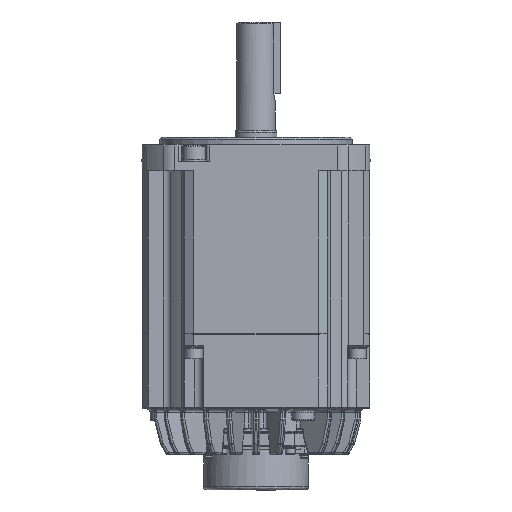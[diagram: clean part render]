
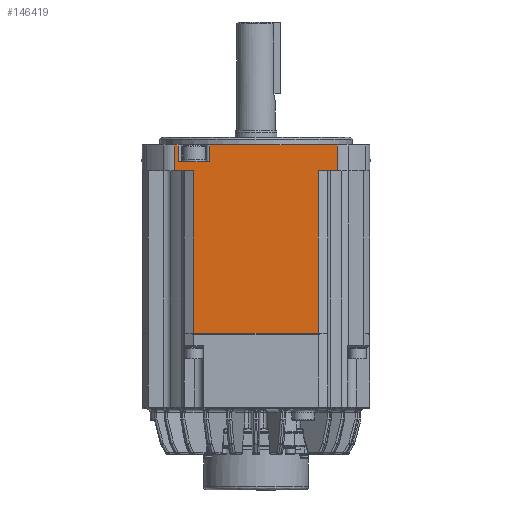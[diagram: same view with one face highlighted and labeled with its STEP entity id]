
A CAD part, front view. The second image highlights one B-rep face of the part: STEP entity #146419.
In plain terms, the highlighted planar face has unit normal (0, -1, 0).
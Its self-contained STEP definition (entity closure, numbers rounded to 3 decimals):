
#1338 = CARTESIAN_POINT ( 'NONE',  ( 155.25, 75.886, 86.092 ) ) ;
#2577 = DIRECTION ( 'NONE',  ( -1., 0., 0. ) ) ;
#4305 = VERTEX_POINT ( 'NONE', #81693 ) ;
#5104 = DIRECTION ( 'NONE',  ( 0., 0., -1. ) ) ;
#8265 = CARTESIAN_POINT ( 'NONE',  ( 164.426, 75.886, 147.092 ) ) ;
#8620 = VECTOR ( 'NONE', #155693, 1000. ) ;
#10188 = VECTOR ( 'NONE', #61274, 1000. ) ;
#11766 = CARTESIAN_POINT ( 'NONE',  ( 248.18, 75.886, 142.092 ) ) ;
#12298 = VERTEX_POINT ( 'NONE', #62369 ) ;
#12527 = FACE_OUTER_BOUND ( 'NONE', #84946, .T. ) ;
#12660 = CARTESIAN_POINT ( 'NONE',  ( 166.215, 75.886, 142.092 ) ) ;
#12702 = DIRECTION ( 'NONE',  ( 1., 0., 0. ) ) ;
#13418 = ORIENTED_EDGE ( 'NONE', *, *, #127316, .T. ) ;
#14767 = EDGE_CURVE ( 'NONE', #4305, #106724, #149715, .T. ) ;
#17155 = DIRECTION ( 'NONE',  ( 0., 0., 1. ) ) ;
#17571 = VERTEX_POINT ( 'NONE', #133794 ) ;
#17769 = PLANE ( 'NONE',  #122854 ) ;
#19879 = LINE ( 'NONE', #147534, #49806 ) ;
#21417 = VERTEX_POINT ( 'NONE', #160798 ) ;
#21967 = VECTOR ( 'NONE', #91290, 1000. ) ;
#25649 = LINE ( 'NONE', #106166, #127252 ) ;
#28190 = CARTESIAN_POINT ( 'NONE',  ( 157.215, 75.886, 86.092 ) ) ;
#30409 = ORIENTED_EDGE ( 'NONE', *, *, #149413, .T. ) ;
#30569 = DIRECTION ( 'NONE',  ( 0., 0., -1. ) ) ;
#33029 = VECTOR ( 'NONE', #117250, 1000. ) ;
#35030 = VERTEX_POINT ( 'NONE', #11766 ) ;
#35283 = EDGE_CURVE ( 'NONE', #21417, #98844, #148802, .T. ) ;
#38417 = ORIENTED_EDGE ( 'NONE', *, *, #116660, .T. ) ;
#40333 = ORIENTED_EDGE ( 'NONE', *, *, #149402, .T. ) ;
#41129 = VERTEX_POINT ( 'NONE', #81047 ) ;
#41423 = VERTEX_POINT ( 'NONE', #129364 ) ;
#44549 = EDGE_CURVE ( 'NONE', #94184, #145387, #19879, .T. ) ;
#45713 = EDGE_CURVE ( 'NONE', #41129, #35030, #93094, .T. ) ;
#47575 = ORIENTED_EDGE ( 'NONE', *, *, #35283, .T. ) ;
#49806 = VECTOR ( 'NONE', #160337, 1000. ) ;
#51969 = EDGE_CURVE ( 'NONE', #88435, #41129, #110229, .T. ) ;
#54287 = LINE ( 'NONE', #120254, #151934 ) ;
#54918 = LINE ( 'NONE', #147326, #88804 ) ;
#56819 = ORIENTED_EDGE ( 'NONE', *, *, #14767, .T. ) ;
#56886 = EDGE_CURVE ( 'NONE', #131019, #90621, #137351, .T. ) ;
#59839 = CARTESIAN_POINT ( 'NONE',  ( 166.215, 75.886, 142.092 ) ) ;
#59870 = CARTESIAN_POINT ( 'NONE',  ( 248.18, 75.886, 156.792 ) ) ;
#59903 = VECTOR ( 'NONE', #65710, 1000. ) ;
#61274 = DIRECTION ( 'NONE',  ( -1., 0., 0. ) ) ;
#62369 = CARTESIAN_POINT ( 'NONE',  ( 157.215, 75.886, 147.092 ) ) ;
#65710 = DIRECTION ( 'NONE',  ( -1., 0., 0. ) ) ;
#66098 = CARTESIAN_POINT ( 'NONE',  ( 166.215, 75.886, 156.792 ) ) ;
#66887 = LINE ( 'NONE', #28190, #33029 ) ;
#67806 = ORIENTED_EDGE ( 'NONE', *, *, #122656, .T. ) ;
#69317 = ORIENTED_EDGE ( 'NONE', *, *, #45713, .T. ) ;
#70150 = CARTESIAN_POINT ( 'NONE',  ( 166.215, 75.886, 142.092 ) ) ;
#71085 = DIRECTION ( 'NONE',  ( 1., 0., 0. ) ) ;
#78500 = CARTESIAN_POINT ( 'NONE',  ( 175.215, 75.886, 86.092 ) ) ;
#81047 = CARTESIAN_POINT ( 'NONE',  ( 237.216, 75.886, 142.092 ) ) ;
#81255 = CARTESIAN_POINT ( 'NONE',  ( 166.215, 75.886, 86.092 ) ) ;
#81424 = CARTESIAN_POINT ( 'NONE',  ( 166.215, 75.886, 86.092 ) ) ;
#81693 = CARTESIAN_POINT ( 'NONE',  ( 157.215, 75.886, 156.792 ) ) ;
#84647 = LINE ( 'NONE', #81424, #152392 ) ;
#84946 = EDGE_LOOP ( 'NONE', ( #38417, #47575, #116957, #151592, #162204, #94726, #69317, #67806, #90825, #30409, #95293, #105167, #40333, #13418, #56819 ) ) ;
#85917 = CARTESIAN_POINT ( 'NONE',  ( 166.215, 75.886, 49.092 ) ) ;
#88435 = VERTEX_POINT ( 'NONE', #120747 ) ;
#88804 = VECTOR ( 'NONE', #71085, 1000. ) ;
#89703 = LINE ( 'NONE', #78500, #21967 ) ;
#89925 = VECTOR ( 'NONE', #2577, 1000. ) ;
#90621 = VERTEX_POINT ( 'NONE', #150747 ) ;
#90825 = ORIENTED_EDGE ( 'NONE', *, *, #164161, .T. ) ;
#91290 = DIRECTION ( 'NONE',  ( 0., 0., -1. ) ) ;
#93094 = LINE ( 'NONE', #59839, #152924 ) ;
#93654 = LINE ( 'NONE', #129146, #59903 ) ;
#94184 = VERTEX_POINT ( 'NONE', #134540 ) ;
#94726 = ORIENTED_EDGE ( 'NONE', *, *, #51969, .T. ) ;
#95293 = ORIENTED_EDGE ( 'NONE', *, *, #100849, .T. ) ;
#96496 = DIRECTION ( 'NONE',  ( 1., 0., 0. ) ) ;
#98844 = VERTEX_POINT ( 'NONE', #12660 ) ;
#99414 = VECTOR ( 'NONE', #12702, 1000. ) ;
#100849 = EDGE_CURVE ( 'NONE', #17571, #94184, #141680, .T. ) ;
#104990 = LINE ( 'NONE', #1338, #117010 ) ;
#105167 = ORIENTED_EDGE ( 'NONE', *, *, #44549, .T. ) ;
#106166 = CARTESIAN_POINT ( 'NONE',  ( 248.18, 75.886, 86.092 ) ) ;
#106724 = VERTEX_POINT ( 'NONE', #124443 ) ;
#106796 = DIRECTION ( 'NONE',  ( 0., -1., 0. ) ) ;
#110229 = LINE ( 'NONE', #155173, #8620 ) ;
#114884 = DIRECTION ( 'NONE',  ( 0., 0., -1. ) ) ;
#116660 = EDGE_CURVE ( 'NONE', #106724, #21417, #104990, .T. ) ;
#116957 = ORIENTED_EDGE ( 'NONE', *, *, #160184, .T. ) ;
#117010 = VECTOR ( 'NONE', #114884, 1000. ) ;
#117250 = DIRECTION ( 'NONE',  ( 0., 0., 1. ) ) ;
#120254 = CARTESIAN_POINT ( 'NONE',  ( 166.215, 75.886, 156.792 ) ) ;
#120747 = CARTESIAN_POINT ( 'NONE',  ( 237.216, 75.886, 49.092 ) ) ;
#120844 = DIRECTION ( 'NONE',  ( -1., 0., 0. ) ) ;
#122656 = EDGE_CURVE ( 'NONE', #35030, #160096, #25649, .T. ) ;
#122854 = AXIS2_PLACEMENT_3D ( 'NONE', #81255, #106796, #30569 ) ;
#124443 = CARTESIAN_POINT ( 'NONE',  ( 155.25, 75.886, 156.792 ) ) ;
#127252 = VECTOR ( 'NONE', #17155, 1000. ) ;
#127316 = EDGE_CURVE ( 'NONE', #12298, #4305, #66887, .T. ) ;
#127510 = EDGE_CURVE ( 'NONE', #90621, #88435, #54918, .T. ) ;
#129146 = CARTESIAN_POINT ( 'NONE',  ( 166.215, 75.886, 147.092 ) ) ;
#129364 = CARTESIAN_POINT ( 'NONE',  ( 175.215, 75.886, 156.792 ) ) ;
#131019 = VERTEX_POINT ( 'NONE', #85917 ) ;
#133794 = CARTESIAN_POINT ( 'NONE',  ( 175.215, 75.886, 147.092 ) ) ;
#134540 = CARTESIAN_POINT ( 'NONE',  ( 168.004, 75.886, 147.092 ) ) ;
#137351 = LINE ( 'NONE', #139135, #99414 ) ;
#138064 = CARTESIAN_POINT ( 'NONE',  ( 166.215, 75.886, 147.092 ) ) ;
#139135 = CARTESIAN_POINT ( 'NONE',  ( 166.215, 75.886, 49.092 ) ) ;
#141680 = LINE ( 'NONE', #138064, #10188 ) ;
#144763 = VECTOR ( 'NONE', #146404, 1000. ) ;
#145387 = VERTEX_POINT ( 'NONE', #8265 ) ;
#146404 = DIRECTION ( 'NONE',  ( 1., 0., 0. ) ) ;
#146419 = ADVANCED_FACE ( 'NONE', ( #12527 ), #17769, .T. ) ;
#147326 = CARTESIAN_POINT ( 'NONE',  ( 166.215, 75.886, 49.092 ) ) ;
#147534 = CARTESIAN_POINT ( 'NONE',  ( 166.215, 75.886, 147.092 ) ) ;
#148802 = LINE ( 'NONE', #70150, #144763 ) ;
#149402 = EDGE_CURVE ( 'NONE', #145387, #12298, #93654, .T. ) ;
#149413 = EDGE_CURVE ( 'NONE', #41423, #17571, #89703, .T. ) ;
#149715 = LINE ( 'NONE', #66098, #89925 ) ;
#150747 = CARTESIAN_POINT ( 'NONE',  ( 201.715, 75.886, 49.092 ) ) ;
#151592 = ORIENTED_EDGE ( 'NONE', *, *, #56886, .T. ) ;
#151934 = VECTOR ( 'NONE', #120844, 1000. ) ;
#152392 = VECTOR ( 'NONE', #5104, 1000. ) ;
#152924 = VECTOR ( 'NONE', #96496, 1000. ) ;
#155173 = CARTESIAN_POINT ( 'NONE',  ( 237.216, 75.886, 86.092 ) ) ;
#155693 = DIRECTION ( 'NONE',  ( 0., 0., 1. ) ) ;
#160096 = VERTEX_POINT ( 'NONE', #59870 ) ;
#160184 = EDGE_CURVE ( 'NONE', #98844, #131019, #84647, .T. ) ;
#160337 = DIRECTION ( 'NONE',  ( -1., 0., 0. ) ) ;
#160798 = CARTESIAN_POINT ( 'NONE',  ( 155.25, 75.886, 142.092 ) ) ;
#162204 = ORIENTED_EDGE ( 'NONE', *, *, #127510, .T. ) ;
#164161 = EDGE_CURVE ( 'NONE', #160096, #41423, #54287, .T. ) ;
